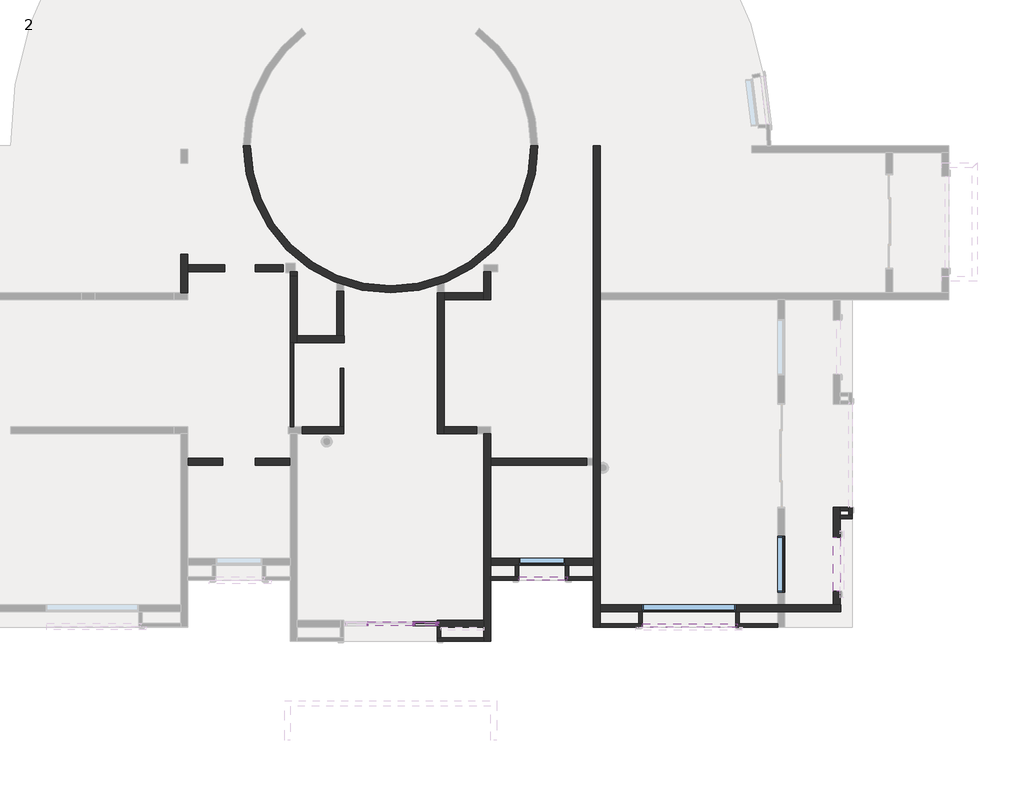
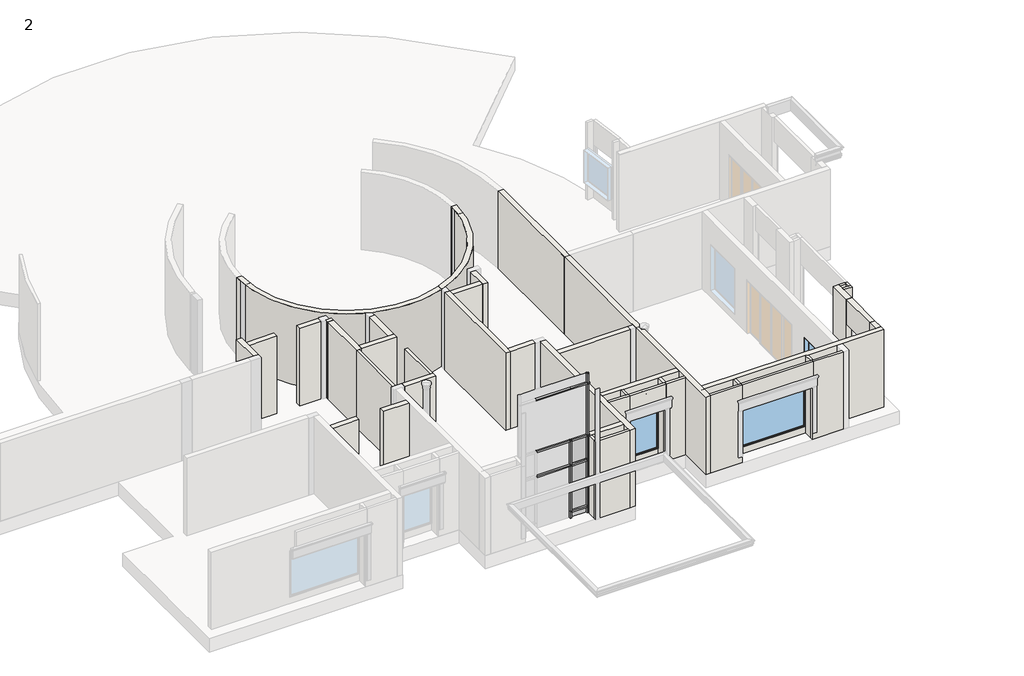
# One storey, part 2 of 10: 41 walls, 21 members, 10 plates, 3 windows.
"""IFC4 building model written with IfcOpenShell, lengths in millimetres."""

from ifc_helpers import new_model, si_unit, point, frame, frame_2d, origin, origin_with_axes, place, context, project, spatial, polyline, circle_curve, trimmed, segment, composite_curve, outline, extrude, faceted_brep, transform, mapped, element, save
from components import rectangular_mullion_64mm_x127mm_rectangular_2_f182018d, rectangular_mullion_64mm_x127mm_rectangular_2_f27d406d, rectangular_mullion_64mm_x127mm_rectangular_2_75d1e245, rectangular_mullion_64mm_x127mm_rectangular_2_06be906d, rectangular_mullion_64mm_x127mm_rectangular_2_866a01fa, rectangular_mullion_64mm_x127mm_rectangular_2_4b922f24, rectangular_mullion_64mm_x127mm_rectangular_2_aca2403a, rectangular_mullion_64mm_x127mm_rectangular_2_867fe1e1, rectangular_mullion_64mm_x127mm_rectangular_2_d2340509, rectangular_mullion_64mm_x127mm_rectangular_2_82905deb, rectangular_mullion_64mm_x127mm_rectangular_2_7b995701, rectangular_mullion_64mm_x127mm_rectangular_2_00d00b53, rectangular_mullion_64mm_x127mm_rectangular_2_7cbddb58, system_panel_glazed_be2d1a8f, system_panel_glazed_3f8747ce, system_panel_glazed_910c57ab, system_panel_glazed_4eb414c4, system_panel_glazed_f3bffda8, system_panel_glazed_06d1d2b3, system_panel_glazed_0c0f1b4f, system_panel_glazed_bb53e18c, system_panel_glazed_e5bdcb8c, system_panel_glazed_ddef2f45, fixed_w1_e8647365, fixed_w2_d0e34ccd, fixed_w4_aaa7ff72

model = new_model("IFC4")

# Units and contexts
model_context = context("Model", 3, world=origin())
ifc_project = project(units=[si_unit("LENGTHUNIT", "METRE", prefix="MILLI")], contexts=[model_context])

# Site, building, storey
site = spatial("IfcSite", under=ifc_project)
building = spatial("IfcBuilding", under=site)
storey = spatial("IfcBuildingStorey", under=building, Name="2", Elevation=0.0)

# Members
placement = place(None, origin())
rectangular_mullion_64mm_x127mm_rectangular_2_shape = rectangular_mullion_64mm_x127mm_rectangular_2_f182018d(model_context)
element("IfcMember", 1, ObjectType="Rectangular Mullion : 64mm x127mm rectangular 2", at=placement, inside=storey, context=model_context, shape_type="MappedRepresentation", body=[
    mapped(rectangular_mullion_64mm_x127mm_rectangular_2_shape, transform((-7658.494385, -15088.1193311, 3581.4), x_axis=(0.0, 0.0, 1.0), y_axis=(0.0, -1.0, 0.0), z_axis=(1.0, 0.0, 0.0))),
])
element("IfcMember", 2, ObjectType="Rectangular Mullion : 64mm x127mm rectangular 2", at=placement, inside=storey, context=model_context, shape_type="MappedRepresentation", body=[
    mapped(rectangular_mullion_64mm_x127mm_rectangular_2_shape, transform((-7658.494385, -15088.1193311, 2438.4), x_axis=(0.0, 0.0, 1.0), y_axis=(0.0, -1.0, 0.0), z_axis=(1.0, 0.0, 0.0))),
])
rectangular_mullion_64mm_x127mm_rectangular_2_2_shape = rectangular_mullion_64mm_x127mm_rectangular_2_f27d406d(model_context)
element("IfcMember", 3, ObjectType="Rectangular Mullion : 64mm x127mm rectangular 2", at=placement, inside=storey, context=model_context, shape_type="MappedRepresentation", body=[
    mapped(rectangular_mullion_64mm_x127mm_rectangular_2_2_shape, transform((-6915.544385, -15088.1193311, 3581.4), x_axis=(0.0, 0.0, 1.0), y_axis=(0.0, -1.0, 0.0), z_axis=(1.0, 0.0, 0.0))),
])
element("IfcMember", 4, ObjectType="Rectangular Mullion : 64mm x127mm rectangular 2", at=placement, inside=storey, context=model_context, shape_type="MappedRepresentation", body=[
    mapped(rectangular_mullion_64mm_x127mm_rectangular_2_2_shape, transform((-6915.544385, -15088.1193311, 2438.4), x_axis=(0.0, 0.0, 1.0), y_axis=(0.0, -1.0, 0.0), z_axis=(1.0, 0.0, 0.0))),
])
element("IfcMember", 5, ObjectType="Rectangular Mullion : 64mm x127mm rectangular 2", at=placement, inside=storey, context=model_context, shape_type="MappedRepresentation", body=[
    mapped(rectangular_mullion_64mm_x127mm_rectangular_2_2_shape, transform((-6915.544385, -15088.1193311, 304.8), x_axis=(0.0, 0.0, 1.0), y_axis=(0.0, -1.0, 0.0), z_axis=(1.0, 0.0, 0.0))),
])
rectangular_mullion_64mm_x127mm_rectangular_2_3_shape = rectangular_mullion_64mm_x127mm_rectangular_2_75d1e245(model_context)
element("IfcMember", 6, ObjectType="Rectangular Mullion : 64mm x127mm rectangular 2", at=placement, inside=storey, context=model_context, shape_type="MappedRepresentation", body=[
    mapped(rectangular_mullion_64mm_x127mm_rectangular_2_3_shape, transform((-7626.744385, -15088.1193311, 0.0), x_axis=(1.0, 0.0, 0.0), y_axis=(0.0, -1.0, 0.0), z_axis=(0.0, 0.0, -1.0))),
])
element("IfcMember", 7, ObjectType="Rectangular Mullion : 64mm x127mm rectangular 2", at=placement, inside=storey, context=model_context, shape_type="MappedRepresentation", body=[
    mapped(rectangular_mullion_64mm_x127mm_rectangular_2_3_shape, transform((-6883.794385, -15088.1193311, 0.0), x_axis=(1.0, 0.0, 0.0), y_axis=(0.0, -1.0, 0.0), z_axis=(0.0, 0.0, -1.0))),
])
rectangular_mullion_64mm_x127mm_rectangular_2_4_shape = rectangular_mullion_64mm_x127mm_rectangular_2_06be906d(model_context)
element("IfcMember", 8, ObjectType="Rectangular Mullion : 64mm x127mm rectangular 2", at=placement, inside=storey, context=model_context, shape_type="MappedRepresentation", body=[
    mapped(rectangular_mullion_64mm_x127mm_rectangular_2_4_shape, transform((-7626.744385, -15088.1193311, 2438.4), x_axis=(1.0, 0.0, 0.0), y_axis=(0.0, -1.0, 0.0), z_axis=(0.0, 0.0, -1.0))),
])
element("IfcMember", 9, ObjectType="Rectangular Mullion : 64mm x127mm rectangular 2", at=placement, inside=storey, context=model_context, shape_type="MappedRepresentation", body=[
    mapped(rectangular_mullion_64mm_x127mm_rectangular_2_4_shape, transform((-6883.794385, -15088.1193311, 2438.4), x_axis=(1.0, 0.0, 0.0), y_axis=(0.0, -1.0, 0.0), z_axis=(0.0, 0.0, -1.0))),
])
rectangular_mullion_64mm_x127mm_rectangular_2_5_shape = rectangular_mullion_64mm_x127mm_rectangular_2_866a01fa(model_context)
element("IfcMember", 10, ObjectType="Rectangular Mullion : 64mm x127mm rectangular 2", at=placement, inside=storey, context=model_context, shape_type="MappedRepresentation", body=[
    mapped(rectangular_mullion_64mm_x127mm_rectangular_2_5_shape, transform((-7626.744385, -15088.1193311, 2489.2), x_axis=(1.0, 0.0, 0.0), y_axis=(0.0, -1.0, 0.0), z_axis=(0.0, 0.0, -1.0))),
])
rectangular_mullion_64mm_x127mm_rectangular_2_6_shape = rectangular_mullion_64mm_x127mm_rectangular_2_4b922f24(model_context)
element("IfcMember", 11, ObjectType="Rectangular Mullion : 64mm x127mm rectangular 2", at=placement, inside=storey, context=model_context, shape_type="MappedRepresentation", body=[
    mapped(rectangular_mullion_64mm_x127mm_rectangular_2_6_shape, transform((-6807.594385, -15088.1193311, 3581.4), x_axis=(0.0, 0.0, 1.0), y_axis=(0.0, -1.0, 0.0), z_axis=(1.0, 0.0, 0.0))),
])
element("IfcMember", 12, ObjectType="Rectangular Mullion : 64mm x127mm rectangular 2", at=placement, inside=storey, context=model_context, shape_type="MappedRepresentation", body=[
    mapped(rectangular_mullion_64mm_x127mm_rectangular_2_6_shape, transform((-6807.594385, -15088.1193311, 2438.4), x_axis=(0.0, 0.0, 1.0), y_axis=(0.0, -1.0, 0.0), z_axis=(1.0, 0.0, 0.0))),
])
element("IfcMember", 13, ObjectType="Rectangular Mullion : 64mm x127mm rectangular 2", at=placement, inside=storey, context=model_context, shape_type="MappedRepresentation", body=[
    mapped(rectangular_mullion_64mm_x127mm_rectangular_2_6_shape, transform((-6807.594385, -15088.1193311, 304.8), x_axis=(0.0, 0.0, 1.0), y_axis=(0.0, -1.0, 0.0), z_axis=(1.0, 0.0, 0.0))),
])
rectangular_mullion_64mm_x127mm_rectangular_2_7_shape = rectangular_mullion_64mm_x127mm_rectangular_2_aca2403a(model_context)
element("IfcMember", 14, ObjectType="Rectangular Mullion : 64mm x127mm rectangular 2", at=placement, inside=storey, context=model_context, shape_type="MappedRepresentation", body=[
    mapped(rectangular_mullion_64mm_x127mm_rectangular_2_7_shape, transform((-6883.794385, -15088.1193311, 3581.4), x_axis=(1.0, 0.0, 0.0), y_axis=(0.0, -1.0, 0.0), z_axis=(0.0, 0.0, -1.0))),
])
rectangular_mullion_64mm_x127mm_rectangular_2_8_shape = rectangular_mullion_64mm_x127mm_rectangular_2_867fe1e1(model_context)
element("IfcMember", 15, ObjectType="Rectangular Mullion : 64mm x127mm rectangular 2", at=placement, inside=storey, context=model_context, shape_type="MappedRepresentation", body=[
    mapped(rectangular_mullion_64mm_x127mm_rectangular_2_8_shape, transform((-6883.794385, -15088.1193311, 2489.2), x_axis=(1.0, 0.0, 0.0), y_axis=(0.0, -1.0, 0.0), z_axis=(0.0, 0.0, -1.0))),
])
rectangular_mullion_64mm_x127mm_rectangular_2_9_shape = rectangular_mullion_64mm_x127mm_rectangular_2_d2340509(model_context)
element("IfcMember", 16, ObjectType="Rectangular Mullion : 64mm x127mm rectangular 2", at=placement, inside=storey, context=model_context, shape_type="MappedRepresentation", body=[
    mapped(rectangular_mullion_64mm_x127mm_rectangular_2_9_shape, transform((-6883.794385, -15088.1193311, 6025.3593009), x_axis=(1.0, 0.0, 0.0), y_axis=(0.0, -1.0, 0.0), z_axis=(0.0, 0.0, -1.0))),
])
rectangular_mullion_64mm_x127mm_rectangular_2_10_shape = rectangular_mullion_64mm_x127mm_rectangular_2_82905deb(model_context)
element("IfcMember", 17, ObjectType="Rectangular Mullion : 64mm x127mm rectangular 2", at=placement, inside=storey, context=model_context, shape_type="MappedRepresentation", body=[
    mapped(rectangular_mullion_64mm_x127mm_rectangular_2_10_shape, transform((-7626.744385, -15088.1193311, 5993.6093009), x_axis=(0.0, 0.0, 1.0), y_axis=(0.0, -1.0, 0.0), z_axis=(1.0, 0.0, 0.0))),
])
rectangular_mullion_64mm_x127mm_rectangular_2_11_shape = rectangular_mullion_64mm_x127mm_rectangular_2_7b995701(model_context)
element("IfcMember", 18, ObjectType="Rectangular Mullion : 64mm x127mm rectangular 2", at=placement, inside=storey, context=model_context, shape_type="MappedRepresentation", body=[
    mapped(rectangular_mullion_64mm_x127mm_rectangular_2_11_shape, transform((-6883.794385, -15088.1193311, 5993.6093009), x_axis=(0.0, 0.0, 1.0), y_axis=(0.0, -1.0, 0.0), z_axis=(1.0, 0.0, 0.0))),
])
rectangular_mullion_64mm_x127mm_rectangular_2_12_shape = rectangular_mullion_64mm_x127mm_rectangular_2_00d00b53(model_context)
element("IfcMember", 19, ObjectType="Rectangular Mullion : 64mm x127mm rectangular 2", at=placement, inside=storey, context=model_context, shape_type="MappedRepresentation", body=[
    mapped(rectangular_mullion_64mm_x127mm_rectangular_2_12_shape, transform((-6807.594385, -15088.1193311, 5993.6093009), x_axis=(0.0, 0.0, 1.0), y_axis=(0.0, -1.0, 0.0), z_axis=(1.0, 0.0, 0.0))),
])
rectangular_mullion_64mm_x127mm_rectangular_2_13_shape = rectangular_mullion_64mm_x127mm_rectangular_2_7cbddb58(model_context)
element("IfcMember", 20, ObjectType="Rectangular Mullion : 64mm x127mm rectangular 2", at=placement, inside=storey, context=model_context, shape_type="MappedRepresentation", body=[
    mapped(rectangular_mullion_64mm_x127mm_rectangular_2_13_shape, transform((-7626.744385, -15088.1193311, 304.8), x_axis=(1.0, 0.0, 0.0), y_axis=(0.0, -1.0, 0.0), z_axis=(0.0, 0.0, -1.0))),
])
element("IfcMember", 21, ObjectType="Rectangular Mullion : 64mm x127mm rectangular 2", at=placement, inside=storey, context=model_context, shape_type="MappedRepresentation", body=[
    mapped(rectangular_mullion_64mm_x127mm_rectangular_2_13_shape, transform((-6883.794385, -15088.1193311, 304.8), x_axis=(1.0, 0.0, 0.0), y_axis=(0.0, -1.0, 0.0), z_axis=(0.0, 0.0, -1.0))),
])

# Plates
system_panel_glazed_shape = system_panel_glazed_be2d1a8f(model_context)
element("IfcPlate", 22, ObjectType="System Panel : Glazed", at=placement, inside=storey, context=model_context, shape_type="MappedRepresentation", body=[
    mapped(system_panel_glazed_shape, transform((-7255.269385, -15088.1193311, 2470.15), x_axis=(1.0, 0.0, 0.0), y_axis=(0.0, 1.0, 0.0), z_axis=(0.0, 0.0, 1.0))),
])
system_panel_glazed_2_shape = system_panel_glazed_3f8747ce(model_context)
element("IfcPlate", 23, ObjectType="System Panel : Glazed", at=placement, inside=storey, context=model_context, shape_type="MappedRepresentation", body=[
    mapped(system_panel_glazed_2_shape, transform((-7255.269385, -15088.1193311, 2489.2), x_axis=(1.0, 0.0, 0.0), y_axis=(0.0, 1.0, 0.0), z_axis=(0.0, 0.0, 1.0))),
])
system_panel_glazed_3_shape = system_panel_glazed_910c57ab(model_context)
element("IfcPlate", 24, ObjectType="System Panel : Glazed", at=placement, inside=storey, context=model_context, shape_type="MappedRepresentation", body=[
    mapped(system_panel_glazed_3_shape, transform((-6829.819385, -15088.1193311, 2470.15), x_axis=(1.0, 0.0, 0.0), y_axis=(0.0, 1.0, 0.0), z_axis=(0.0, 0.0, 1.0))),
])
system_panel_glazed_4_shape = system_panel_glazed_4eb414c4(model_context)
element("IfcPlate", 25, ObjectType="System Panel : Glazed", at=placement, inside=storey, context=model_context, shape_type="MappedRepresentation", body=[
    mapped(system_panel_glazed_4_shape, transform((-6829.819385, -15088.1193311, 2489.2), x_axis=(1.0, 0.0, 0.0), y_axis=(0.0, 1.0, 0.0), z_axis=(0.0, 0.0, 1.0))),
])
system_panel_glazed_5_shape = system_panel_glazed_f3bffda8(model_context)
element("IfcPlate", 26, ObjectType="System Panel : Glazed", at=placement, inside=storey, context=model_context, shape_type="MappedRepresentation", body=[
    mapped(system_panel_glazed_5_shape, transform((-6829.819385, -15088.1193311, 3613.15), x_axis=(1.0, 0.0, 0.0), y_axis=(0.0, 1.0, 0.0), z_axis=(0.0, 0.0, 1.0))),
])
system_panel_glazed_6_shape = system_panel_glazed_06d1d2b3(model_context)
element("IfcPlate", 27, ObjectType="System Panel : Glazed", at=placement, inside=storey, context=model_context, shape_type="MappedRepresentation", body=[
    mapped(system_panel_glazed_6_shape, transform((-6829.819385, -15088.1193311, 6025.3593009), x_axis=(1.0, 0.0, 0.0), y_axis=(0.0, 1.0, 0.0), z_axis=(0.0, 0.0, 1.0))),
])
system_panel_glazed_7_shape = system_panel_glazed_0c0f1b4f(model_context)
element("IfcPlate", 28, ObjectType="System Panel : Glazed", at=placement, inside=storey, context=model_context, shape_type="MappedRepresentation", body=[
    mapped(system_panel_glazed_7_shape, transform((-7255.269385, -15088.1193311, 0.0), x_axis=(1.0, 0.0, 0.0), y_axis=(0.0, 1.0, 0.0), z_axis=(0.0, 0.0, 1.0))),
])
system_panel_glazed_8_shape = system_panel_glazed_bb53e18c(model_context)
element("IfcPlate", 29, ObjectType="System Panel : Glazed", at=placement, inside=storey, context=model_context, shape_type="MappedRepresentation", body=[
    mapped(system_panel_glazed_8_shape, transform((-6829.819385, -15088.1193311, 0.0), x_axis=(1.0, 0.0, 0.0), y_axis=(0.0, 1.0, 0.0), z_axis=(0.0, 0.0, 1.0))),
])
system_panel_glazed_9_shape = system_panel_glazed_e5bdcb8c(model_context)
element("IfcPlate", 30, ObjectType="System Panel : Glazed", at=placement, inside=storey, context=model_context, shape_type="MappedRepresentation", body=[
    mapped(system_panel_glazed_9_shape, transform((-7255.269385, -15088.1193311, 336.55), x_axis=(1.0, 0.0, 0.0), y_axis=(0.0, 1.0, 0.0), z_axis=(0.0, 0.0, 1.0))),
])
system_panel_glazed_10_shape = system_panel_glazed_ddef2f45(model_context)
element("IfcPlate", 31, ObjectType="System Panel : Glazed", at=placement, inside=storey, context=model_context, shape_type="MappedRepresentation", body=[
    mapped(system_panel_glazed_10_shape, transform((-6829.819385, -15088.1193311, 336.55), x_axis=(1.0, 0.0, 0.0), y_axis=(0.0, 1.0, 0.0), z_axis=(0.0, 0.0, 1.0))),
])

# Walls
element("IfcWall", 32, ObjectType="115mm BK WALL", at=placement, inside=storey, context=model_context, shape_type="SweptSolid", body=[
    extrude(outline(polyline([(-10030.7929814, -8649.2193311), (-10030.7929814, -6744.2193311), (-9916.4929814, -6744.2193311), (-9916.4929814, -8649.2193311), (-10030.7929814, -8649.2193311)])), origin_with_axes(), (0.0, 0.0, 1.0), 3581.4),
])
element("IfcWall", 33, ObjectType="115mm BK WALL", at=placement, inside=storey, context=model_context, shape_type="SweptSolid", body=[
    extrude(outline(polyline([(-11665.1950906, -8649.2193311), (-11665.1950906, -5906.0193311), (-11550.8950906, -5906.0193311), (-11550.8950906, -8649.2193311), (-11665.1950906, -8649.2193311)])), origin_with_axes(), (0.0, 0.0, 1.0), 3581.4),
])
element("IfcWall", 34, ObjectType="115mm BK WALL", at=placement, inside=storey, context=model_context, shape_type="Brep", body=[
    faceted_brep([(-6864.744385, -15202.4193311, 0.0), (-6864.744385, -15545.3193311, 0.0), (-6864.744385, -15545.3193311, 3581.4), (-6864.744385, -15202.4193311, 3581.4), (-6750.444385, -15545.3193311, 0.0), (-6750.444385, -15202.4193311, 0.0), (-6750.444385, -15202.4193311, 2743.2), (-6750.444385, -15202.4193311, 3238.5), (-6750.444385, -15202.4193311, 3581.4), (-6750.444385, -15545.3193311, 3581.4)], [[[0, 1, 2, 3]], [[4, 5, 6, 7, 8, 9]], [[1, 0, 5, 4]], [[3, 2, 9, 8]], [[0, 3, 8, 7, 6, 5]], [[2, 1, 4, 9]]]),
])
element("IfcWall", 35, ObjectType="115mm BK WALL", at=placement, inside=storey, context=model_context, shape_type="Brep", body=[
    faceted_brep([(-6864.744385, -15659.6193311, 0.0), (-5340.5950906, -15659.6193311, 0.0), (-5340.5950906, -15659.6193311, 3581.4), (-6864.744385, -15659.6193311, 3581.4), (-6864.744385, -15545.3193311, 0.0), (-6864.744385, -15545.3193311, 3581.4), (-6750.444385, -15545.3193311, 3581.4), (-5340.5950906, -15545.3193311, 3581.4), (-5340.5950906, -15545.3193311, 0.0), (-6750.444385, -15545.3193311, 0.0)], [[[0, 1, 2, 3]], [[4, 5, 6, 7, 8, 9]], [[1, 0, 4, 9, 8]], [[3, 2, 7, 6, 5]], [[0, 3, 5, 4]], [[2, 1, 8, 7]]]),
])
element("IfcWall", 36, ObjectType="115mm BK WALL", at=placement, inside=storey, context=model_context, shape_type="Brep", body=[
    faceted_brep([(-5111.9950906, -13677.6181763, 0.0), (-4197.744385, -13677.6181763, 0.0), (-4197.744385, -13677.6181763, 2438.4), (-4197.744385, -13677.6181763, 3581.4), (-5111.9950906, -13677.6181763, 3581.4), (-5111.9950906, -13563.3181763, 0.0), (-5111.9950906, -13563.3181763, 3581.4), (-4312.044385, -13563.3181763, 3581.4), (-4197.744385, -13563.3181763, 3581.4), (-4197.744385, -13563.3181763, 2438.4), (-4197.744385, -13563.3181763, 0.0), (-4312.044385, -13563.3181763, 0.0)], [[[0, 1, 2, 3, 4]], [[5, 6, 7, 8, 9, 10, 11]], [[1, 0, 5, 11, 10]], [[4, 3, 8, 7, 6]], [[1, 10, 9, 8, 3, 2]], [[0, 4, 6, 5]]]),
])
element("IfcWall", 37, ObjectType="115mm BK WALL", at=placement, inside=storey, context=model_context, shape_type="Brep", body=[
    faceted_brep([(-4197.744385, -13563.3181763, 3581.4), (-4197.744385, -13563.3181763, 0.0), (-4197.744385, -13183.1193311, 0.0), (-4197.744385, -13183.1193311, 304.8), (-4197.744385, -13183.1193311, 2438.4), (-4197.744385, -13183.1193311, 3581.4), (-4312.044385, -13563.3181763, 0.0), (-4312.044385, -13563.3181763, 3581.4), (-4312.044385, -13183.1193311, 3581.4), (-4312.044385, -13183.1193311, 0.0)], [[[0, 1, 2, 3, 4, 5]], [[6, 7, 8, 9]], [[2, 1, 6, 9]], [[0, 5, 8, 7]], [[0, 7, 6, 1]], [[5, 4, 3, 2, 9, 8]]]),
])
element("IfcWall", 38, ObjectType="115mm BK WALL", at=placement, inside=storey, context=model_context, shape_type="Brep", body=[
    faceted_brep([(-2673.744385, -13183.1193311, 0.0), (-2673.744385, -13563.3181763, 0.0), (-2673.744385, -13563.3181763, 2438.4), (-2673.744385, -13563.3181763, 3581.4), (-2673.744385, -13183.1193311, 3581.4), (-2673.744385, -13183.1193311, 2438.4), (-2673.744385, -13183.1193311, 304.8), (-2559.444385, -13183.1193311, 0.0), (-2559.444385, -13183.1193311, 3581.4), (-2559.444385, -13563.3181763, 3581.4), (-2559.444385, -13563.3181763, 0.0), (-2616.594385, -13563.3181763, 3581.4)], [[[0, 1, 2, 3, 4, 5, 6]], [[7, 8, 9, 10]], [[1, 0, 7, 10]], [[4, 3, 11, 9, 8]], [[0, 6, 5, 4, 8, 7]], [[1, 10, 9, 11, 3, 2]]]),
])
element("IfcWall", 39, ObjectType="115mm BK WALL", at=placement, inside=storey, context=model_context, shape_type="Brep", body=[
    faceted_brep([(-2673.744385, -13677.6181763, 0.0), (-1759.1950906, -13677.6181763, 0.0), (-1759.1950906, -13677.6181763, 3581.4), (-2616.594385, -13677.6181763, 3581.4), (-2616.594385, -13677.6181763, 2438.4), (-2673.744385, -13677.6181763, 2438.4), (-2673.744385, -13563.3181763, 0.0), (-2673.744385, -13563.3181763, 2438.4), (-2616.594385, -13563.3181763, 2438.4), (-2616.594385, -13563.3181763, 3581.4), (-2559.444385, -13563.3181763, 3581.4), (-1759.1950906, -13563.3181763, 3581.4), (-1759.1950906, -13563.3181763, 0.0), (-2559.444385, -13563.3181763, 0.0)], [[[0, 1, 2, 3, 4, 5]], [[6, 7, 8, 9, 10, 11, 12, 13]], [[1, 0, 6, 13, 12]], [[3, 2, 11, 10, 9]], [[4, 3, 9, 8]], [[4, 8, 7, 5]], [[0, 5, 7, 6]], [[2, 1, 12, 11]]]),
])
element("IfcWall", 40, ObjectType="115mm BK WALL", at=placement, inside=storey, context=model_context, shape_type="Brep", body=[
    faceted_brep([(-1530.5950906, -15202.4193311, 0.0), (-159.144385, -15202.4193311, 0.0), (-159.144385, -15202.4193311, 2438.4), (-159.144385, -15202.4193311, 2933.7), (-159.144385, -15202.4193311, 3581.4), (-1530.5950906, -15202.4193311, 3581.4), (-159.144385, -15088.1193311, 0.0), (-273.444385, -15088.1193311, 0.0), (-1530.5950906, -15088.1193311, 0.0), (-1530.5950906, -15088.1193311, 3581.4), (-273.444385, -15088.1193311, 3581.4), (-159.144385, -15088.1193311, 3581.4), (-159.144385, -15088.1193311, 2438.4)], [[[0, 1, 2, 3, 4, 5]], [[6, 7, 8, 9, 10, 11, 12]], [[1, 0, 8, 7, 6]], [[5, 4, 11, 10, 9]], [[1, 6, 12, 11, 4, 3, 2]], [[0, 5, 9, 8]]]),
])
element("IfcWall", 41, ObjectType="115mm BK WALL", at=placement, inside=storey, context=model_context, shape_type="Brep", body=[
    faceted_brep([(-159.144385, -15088.1193311, 3581.4), (-159.144385, -15088.1193311, 0.0), (-159.144385, -14707.1193311, 0.0), (-159.144385, -14707.1193311, 304.8), (-159.144385, -14707.1193311, 2438.4), (-159.144385, -14707.1193311, 3581.4), (-273.444385, -15088.1193311, 0.0), (-273.444385, -15088.1193311, 3581.4), (-273.444385, -14707.1193311, 3581.4), (-273.444385, -14707.1193311, 0.0)], [[[0, 1, 2, 3, 4, 5]], [[6, 7, 8, 9]], [[2, 1, 6, 9]], [[0, 5, 8, 7]], [[0, 7, 6, 1]], [[5, 4, 3, 2, 9, 8]]]),
])
element("IfcWall", 42, ObjectType="115mm BK WALL", at=placement, inside=storey, context=model_context, shape_type="Brep", body=[
    faceted_brep([(2888.855615, -14707.1193311, 0.0), (2888.855615, -15088.1193311, 0.0), (2888.855615, -15088.1193311, 2438.4), (2888.855615, -15088.1193311, 3581.4), (2888.855615, -14707.1193311, 3581.4), (2888.855615, -14707.1193311, 2438.4), (2888.855615, -14707.1193311, 304.8), (3003.155615, -15088.1193311, 0.0), (3003.155615, -14707.1193311, 0.0), (3003.155615, -14707.1193311, 3581.4), (3003.155615, -15088.1193311, 3581.4), (2946.005615, -15088.1193311, 3581.4)], [[[0, 1, 2, 3, 4, 5, 6]], [[7, 8, 9, 10]], [[1, 0, 8, 7]], [[4, 3, 11, 10, 9]], [[0, 6, 5, 4, 9, 8]], [[1, 7, 10, 11, 3, 2]]]),
])
element("IfcWall", 43, ObjectType="115mm BK WALL", at=placement, inside=storey, context=model_context, shape_type="Brep", body=[
    faceted_brep([(2888.855615, -15202.4193311, 0.0), (4260.6049094, -15202.4193311, 0.0), (4260.6049094, -15202.4193311, 3581.4), (2946.005615, -15202.4193311, 3581.4), (2946.005615, -15202.4193311, 2933.7), (2946.005615, -15202.4193311, 2438.4), (2888.855615, -15202.4193311, 2438.4), (4260.6049094, -15088.1193311, 0.0), (3003.155615, -15088.1193311, 0.0), (2888.855615, -15088.1193311, 0.0), (2888.855615, -15088.1193311, 2438.4), (2946.005615, -15088.1193311, 2438.4), (2946.005615, -15088.1193311, 3581.4), (3003.155615, -15088.1193311, 3581.4), (4260.6049094, -15088.1193311, 3581.4)], [[[0, 1, 2, 3, 4, 5, 6]], [[7, 8, 9, 10, 11, 12, 13, 14]], [[1, 0, 9, 8, 7]], [[3, 2, 14, 13, 12]], [[3, 12, 11, 5, 4]], [[5, 11, 10, 6]], [[0, 6, 10, 9]], [[2, 1, 7, 14]]]),
])
element("IfcWall", 44, ObjectType="115mm BK WALL", at=placement, inside=storey, context=model_context, shape_type="Brep", body=[
    faceted_brep([(6317.0878641, -11658.3181763, 0.0), (6697.9385697, -11658.3181763, 0.0), (6697.9385697, -11658.3181763, 3581.4), (6317.0878641, -11658.3181763, 3581.4), (6317.0878641, -11544.0181763, 0.0), (6317.0878641, -11544.0181763, 3581.4), (6583.6385697, -11544.0181763, 3581.4), (6697.9385697, -11544.0181763, 3581.4), (6697.9385697, -11544.0181763, 0.0), (6583.6385697, -11544.0181763, 0.0)], [[[0, 1, 2, 3]], [[4, 5, 6, 7, 8, 9]], [[1, 0, 4, 9, 8]], [[3, 2, 7, 6, 5]], [[2, 1, 8, 7]], [[0, 3, 5, 4]]]),
])
element("IfcWall", 45, ObjectType="115mm BK WALL", at=placement, inside=storey, context=model_context, shape_type="Brep", body=[
    faceted_brep([(6697.9385697, -11544.0181763, 0.0), (6697.9385697, -11277.3181763, 0.0), (6697.9385697, -11277.3181763, 2438.4), (6697.9385697, -11277.3181763, 2933.7), (6697.9385697, -11277.3181763, 3581.4), (6697.9385697, -11544.0181763, 3581.4), (6583.6385697, -11277.3181763, 0.0), (6583.6385697, -11391.6181763, 0.0), (6583.6385697, -11544.0181763, 0.0), (6583.6385697, -11544.0181763, 3581.4), (6583.6385697, -11391.6181763, 3581.4), (6583.6385697, -11277.3181763, 3581.4), (6583.6385697, -11277.3181763, 2438.4)], [[[0, 1, 2, 3, 4, 5]], [[6, 7, 8, 9, 10, 11, 12]], [[1, 0, 8, 7, 6]], [[5, 4, 11, 10, 9]], [[1, 6, 12, 11, 4, 3, 2]], [[0, 5, 9, 8]]]),
])
element("IfcWall", 46, ObjectType="115mm BK WALL", at=placement, inside=storey, context=model_context, shape_type="SweptSolid", body=[
    extrude(outline(polyline([(6317.0878641, -11277.3181763), (6583.6385697, -11277.3181763), (6583.6385697, -11391.6181763), (6317.0878641, -11391.6181763), (6317.0878641, -11277.3181763)])), origin_with_axes(), (0.0, 0.0, 1.0), 3581.4),
])
element("IfcWall", 47, ObjectType="115mm BK WALL", at=placement, inside=storey, context=model_context, shape_type="Brep", body=[
    faceted_brep([(-159.144385, -15202.4193311, 2438.4), (2888.855615, -15202.4193311, 2438.4), (2946.005615, -15202.4193311, 2438.4), (2946.005615, -15202.4193311, 3581.4), (-159.144385, -15202.4193311, 3581.4), (-159.144385, -15088.1193311, 2438.4), (-159.144385, -15088.1193311, 3581.4), (2888.855615, -15088.1193311, 3581.4), (2946.005615, -15088.1193311, 3581.4), (2946.005615, -15088.1193311, 2438.4), (2888.855615, -15088.1193311, 2438.4)], [[[0, 1, 2, 3, 4]], [[5, 6, 7, 8, 9, 10]], [[2, 1, 0, 5, 10, 9]], [[3, 2, 9, 8]], [[4, 3, 8, 7, 6]], [[0, 4, 6, 5]]]),
])
element("IfcWall", 48, ObjectType="115mm BK WALL", at=placement, inside=storey, context=model_context, shape_type="Brep", body=[
    faceted_brep([(-4197.744385, -13677.6181763, 2438.4), (-2673.744385, -13677.6181763, 2438.4), (-2616.594385, -13677.6181763, 2438.4), (-2616.594385, -13677.6181763, 3581.4), (-4197.744385, -13677.6181763, 3581.4), (-4197.744385, -13563.3181763, 2438.4), (-4197.744385, -13563.3181763, 3581.4), (-2673.744385, -13563.3181763, 3581.4), (-2616.594385, -13563.3181763, 3581.4), (-2616.594385, -13563.3181763, 2438.4), (-2673.744385, -13563.3181763, 2438.4)], [[[0, 1, 2, 3, 4]], [[5, 6, 7, 8, 9, 10]], [[2, 1, 0, 5, 10, 9]], [[3, 2, 9, 8]], [[4, 3, 8, 7, 6]], [[0, 4, 6, 5]]]),
])
element("IfcWall", 49, ObjectType="230mm BK WALL", at=placement, inside=storey, context=model_context, shape_type="Brep", body=[
    faceted_brep([(-5111.9950906, -13183.1193311, 0.0), (-4312.044385, -13183.1193311, 0.0), (-4197.744385, -13183.1193311, 0.0), (-2673.744385, -13183.1193311, 0.0), (-2559.444385, -13183.1193311, 0.0), (-1759.1950906, -13183.1193311, 0.0), (-1759.1950906, -13183.1193311, 3581.4), (-2559.444385, -13183.1193311, 3581.4), (-2673.744385, -13183.1193311, 3581.4), (-4197.744385, -13183.1193311, 3581.4), (-4312.044385, -13183.1193311, 3581.4), (-5111.9950906, -13183.1193311, 3581.4), (-4197.744385, -13183.1193311, 2438.4), (-2673.744385, -13183.1193311, 2438.4), (-2673.744385, -13183.1193311, 304.8), (-4197.744385, -13183.1193311, 304.8), (-5111.9950906, -12954.5193311, 0.0), (-5111.9950906, -12954.5193311, 3581.4), (-1759.1950906, -12954.5193311, 3581.4), (-1759.1950906, -12954.5193311, 0.0), (-4197.744385, -12954.5193311, 2438.4), (-4197.744385, -12954.5193311, 304.8), (-2673.744385, -12954.5193311, 304.8), (-2673.744385, -12954.5193311, 2438.4)], [[[0, 1, 2, 3, 4, 5, 6, 7, 8, 9, 10, 11], [12, 13, 14, 15]], [[16, 17, 18, 19], [20, 21, 22, 23]], [[5, 4, 3, 2, 1, 0, 16, 19]], [[11, 10, 9, 8, 7, 6, 18, 17]], [[6, 5, 19, 18]], [[0, 11, 17, 16]], [[21, 20, 12, 15]], [[22, 21, 15, 14]], [[23, 22, 14, 13]], [[20, 23, 13, 12]]]),
])
element("IfcWall", 50, ObjectType="230mm BK WALL", at=placement, inside=storey, context=model_context, shape_type="Brep", body=[
    faceted_brep([(-1530.5950906, -14707.1193311, 0.0), (-273.444385, -14707.1193311, 0.0), (-159.144385, -14707.1193311, 0.0), (2888.855615, -14707.1193311, 0.0), (3003.155615, -14707.1193311, 0.0), (6318.0049094, -14707.1193311, 0.0), (6318.0049094, -14707.1193311, 3581.4), (3003.155615, -14707.1193311, 3581.4), (2888.855615, -14707.1193311, 3581.4), (-159.144385, -14707.1193311, 3581.4), (-273.444385, -14707.1193311, 3581.4), (-1530.5950906, -14707.1193311, 3581.4), (-159.144385, -14707.1193311, 304.8), (-159.144385, -14707.1193311, 2438.4), (2888.855615, -14707.1193311, 2438.4), (2888.855615, -14707.1193311, 304.8), (6318.0049094, -14478.5193311, 0.0), (6317.0878641, -14478.5193311, 0.0), (6088.4878641, -14478.5193311, 0.0), (-1530.5950906, -14478.5193311, 0.0), (-1530.5950906, -14478.5193311, 3581.4), (6088.4878641, -14478.5193311, 3581.4), (6317.0878641, -14478.5193311, 3581.4), (6318.0049094, -14478.5193311, 3581.4), (-159.144385, -14478.5193311, 2438.4), (-159.144385, -14478.5193311, 304.8), (2888.855615, -14478.5193311, 304.8), (2888.855615, -14478.5193311, 2438.4)], [[[0, 1, 2, 3, 4, 5, 6, 7, 8, 9, 10, 11], [12, 13, 14, 15]], [[16, 17, 18, 19, 20, 21, 22, 23], [24, 25, 26, 27]], [[5, 4, 3, 2, 1, 0, 19, 18, 17, 16]], [[6, 5, 16, 23]], [[11, 10, 9, 8, 7, 6, 23, 22, 21, 20]], [[0, 11, 20, 19]], [[24, 13, 12, 25]], [[15, 26, 25, 12]], [[26, 15, 14, 27]], [[13, 24, 27, 14]]]),
])
element("IfcWall", 51, ObjectType="230mm BK WALL", at=placement, inside=storey, context=model_context, shape_type="Brep", body=[
    faceted_brep([(-1759.1950906, 536.0156211, 0.0), (-1759.1950906, -12954.5193311, 0.0), (-1759.1950906, -13183.1193311, 0.0), (-1759.1950906, -13563.3181763, 0.0), (-1759.1950906, -13677.6181763, 0.0), (-1759.1950906, -15202.4193311, 0.0), (-1759.1950906, -15202.4193311, 3581.4), (-1759.1950906, -13677.6181763, 3581.4), (-1759.1950906, -13563.3181763, 3581.4), (-1759.1950906, -13183.1193311, 3581.4), (-1759.1950906, -12954.5193311, 3581.4), (-1759.1950906, 536.0156211, 3581.4), (-1530.5950906, 536.0156211, 0.0), (-1530.5950906, 536.0156211, 3581.4), (-1530.5950906, -4267.7193311, 3581.4), (-1530.5950906, -4496.3193311, 3581.4), (-1530.5950906, -14478.5193311, 3581.4), (-1530.5950906, -14707.1193311, 3581.4), (-1530.5950906, -15088.1193311, 3581.4), (-1530.5950906, -15202.4193311, 3581.4), (-1530.5950906, -15202.4193311, 0.0), (-1530.5950906, -15088.1193311, 0.0), (-1530.5950906, -14707.1193311, 0.0), (-1530.5950906, -14478.5193311, 0.0), (-1530.5950906, -4496.3193311, 0.0), (-1530.5950906, -4267.7193311, 0.0)], [[[0, 1, 2, 3, 4, 5, 6, 7, 8, 9, 10, 11]], [[12, 13, 14, 15, 16, 17, 18, 19, 20, 21, 22, 23, 24, 25]], [[5, 4, 3, 2, 1, 0, 12, 25, 24, 23, 22, 21, 20]], [[11, 10, 9, 8, 7, 6, 19, 18, 17, 16, 15, 14, 13]], [[0, 11, 13, 12]], [[6, 5, 20, 19]]]),
])
element("IfcWall", 52, ObjectType="230mm BK WALL", at=placement, inside=storey, context=model_context, shape_type="Brep", body=[
    faceted_brep([(-5340.5950906, -3581.9193311, 0.0), (-5340.5950906, -4267.7193311, 0.0), (-5340.5950906, -4496.3193311, 0.0), (-5340.5950906, -4496.3193311, 3581.4), (-5340.5950906, -4267.7193311, 3581.4), (-5340.5950906, -3581.9193311, 3581.4), (-5111.9950906, -3581.9193311, 0.0), (-5111.9950906, -3581.9193311, 3581.4), (-5111.9950906, -4496.3193311, 3581.4), (-5111.9950906, -4496.3193311, 0.0)], [[[0, 1, 2, 3, 4, 5]], [[6, 7, 8, 9]], [[2, 1, 0, 6, 9]], [[5, 4, 3, 8, 7]], [[0, 5, 7, 6]], [[3, 2, 9, 8]]]),
])
element("IfcWall", 53, ObjectType="230mm BK WALL", at=placement, inside=storey, context=model_context, shape_type="Brep", body=[
    faceted_brep([(-6864.5950906, -4267.7193311, 0.0), (-6864.5950906, -8877.8193311, 0.0), (-6864.5950906, -8877.8193311, 3581.4), (-6864.5950906, -4267.7193311, 3581.4), (-6635.9950906, -4267.7193311, 0.0), (-6635.9950906, -4267.7193311, 3581.4), (-6635.9950906, -4496.3193311, 3581.4), (-6635.9950906, -8649.2193311, 3581.4), (-6635.9950906, -8877.8193311, 3581.4), (-6635.9950906, -8877.8193311, 0.0), (-6635.9950906, -8649.2193311, 0.0), (-6635.9950906, -4496.3193311, 0.0)], [[[0, 1, 2, 3]], [[4, 5, 6, 7, 8, 9, 10, 11]], [[1, 0, 4, 11, 10, 9]], [[3, 2, 8, 7, 6, 5]], [[0, 3, 5, 4]], [[2, 1, 9, 8]]]),
])
element("IfcWall", 54, ObjectType="230mm BK WALL", at=placement, inside=storey, context=model_context, shape_type="SweptSolid", body=[
    extrude(outline(polyline([(-5340.5950906, -4496.3193311), (-6635.9950906, -4496.3193311), (-6635.9950906, -4267.7193311), (-5340.5950906, -4267.7193311), (-5340.5950906, -4496.3193311)])), origin_with_axes(), (0.0, 0.0, 1.0), 3581.4),
])
element("IfcWall", 55, ObjectType="230mm BK WALL", at=placement, inside=storey, context=model_context, shape_type="SweptSolid", body=[
    extrude(outline(polyline([(-5565.5950906, -8877.8193311), (-6635.9950906, -8877.8193311), (-6635.9950906, -8649.2193311), (-5565.5950906, -8649.2193311), (-5565.5950906, -8877.8193311)])), origin_with_axes(), (0.0, 0.0, 1.0), 3581.4),
])
element("IfcWall", 56, ObjectType="230mm BK WALL", at=placement, inside=storey, context=model_context, shape_type="Brep", body=[
    faceted_brep([(-5340.5950906, -8877.8193311, 0.0), (-5340.5950906, -14973.8193311, 0.0), (-5340.5950906, -15202.4193311, 0.0), (-5340.5950906, -15545.3193311, 0.0), (-5340.5950906, -15659.6193311, 0.0), (-5340.5950906, -15659.6193311, 3581.4), (-5340.5950906, -15545.3193311, 3581.4), (-5340.5950906, -15202.4193311, 3581.4), (-5340.5950906, -14973.8193311, 3581.4), (-5340.5950906, -8877.8193311, 3581.4), (-5111.9950906, -8877.8193311, 0.0), (-5111.9950906, -8877.8193311, 3581.4), (-5111.9950906, -9677.9193311, 3581.4), (-5111.9950906, -9906.5193311, 3581.4), (-5111.9950906, -12954.5193311, 3581.4), (-5111.9950906, -13183.1193311, 3581.4), (-5111.9950906, -13563.3181763, 3581.4), (-5111.9950906, -13677.6181763, 3581.4), (-5111.9950906, -15659.6193311, 3581.4), (-5111.9950906, -15659.6193311, 0.0), (-5111.9950906, -13677.6181763, 0.0), (-5111.9950906, -13563.3181763, 0.0), (-5111.9950906, -13183.1193311, 0.0), (-5111.9950906, -12954.5193311, 0.0), (-5111.9950906, -9906.5193311, 0.0), (-5111.9950906, -9677.9193311, 0.0)], [[[0, 1, 2, 3, 4, 5, 6, 7, 8, 9]], [[10, 11, 12, 13, 14, 15, 16, 17, 18, 19, 20, 21, 22, 23, 24, 25]], [[4, 3, 2, 1, 0, 10, 25, 24, 23, 22, 21, 20, 19]], [[9, 8, 7, 6, 5, 18, 17, 16, 15, 14, 13, 12, 11]], [[0, 9, 11, 10]], [[5, 4, 19, 18]]]),
])
element("IfcWall", 57, ObjectType="230mm BK WALL", at=placement, inside=storey, context=model_context, shape_type="SweptSolid", body=[
    extrude(outline(polyline([(-1984.1950906, -9906.5193311), (-5111.9950906, -9906.5193311), (-5111.9950906, -9677.9193311), (-1984.1950906, -9677.9193311), (-1984.1950906, -9906.5193311)])), origin_with_axes(), (0.0, 0.0, 1.0), 3581.4),
])
element("IfcWall", 58, ObjectType="230mm BK WALL", at=placement, inside=storey, context=model_context, shape_type="Brep", body=[
    faceted_brep([(-15017.9950906, -4267.7193311, 0.0), (-15017.9950906, -3581.9193311, 0.0), (-15017.9950906, -3353.3193311, 0.0), (-15017.9950906, -3010.4193311, 0.0), (-15017.9950906, -3010.4193311, 3581.4), (-15017.9950906, -3353.3193311, 3581.4), (-15017.9950906, -3581.9193311, 3581.4), (-15017.9950906, -4267.7193311, 3581.4), (-15246.5950906, -4267.7193311, 0.0), (-15246.5950906, -4267.7193311, 3581.4), (-15246.5950906, -3010.4193311, 3581.4), (-15246.5950906, -3010.4193311, 0.0)], [[[0, 1, 2, 3, 4, 5, 6, 7]], [[8, 9, 10, 11]], [[3, 2, 1, 0, 8, 11]], [[4, 3, 11, 10]], [[7, 6, 5, 4, 10, 9]], [[0, 7, 9, 8]]]),
])
element("IfcWall", 59, ObjectType="230mm BK WALL", at=placement, inside=storey, context=model_context, shape_type="SweptSolid", body=[
    extrude(outline(polyline([(-13816.5824081, -3581.9193311), (-15017.9950906, -3581.9193311), (-15017.9950906, -3353.3193311), (-13816.5824081, -3353.3193311), (-13816.5824081, -3581.9193311)])), origin_with_axes(), (0.0, 0.0, 1.0), 3581.4),
])
element("IfcWall", 60, ObjectType="230mm BK WALL", at=placement, inside=storey, context=model_context, shape_type="SweptSolid", body=[
    extrude(outline(polyline([(-13874.9950906, -9906.5193311), (-15017.9950906, -9906.5193311), (-15017.9950906, -9677.9193311), (-13874.9950906, -9677.9193311), (-13874.9950906, -9906.5193311)])), origin_with_axes(), (0.0, 0.0, 1.0), 3581.4),
])
element("IfcWall", 61, ObjectType="230mm BK WALL", at=placement, inside=storey, context=model_context, shape_type="SweptSolid", body=[
    extrude(outline(polyline([(-11665.1950906, -9906.5193311), (-12808.1950906, -9906.5193311), (-12808.1950906, -9677.9193311), (-11665.1950906, -9677.9193311), (-11665.1950906, -9906.5193311)])), origin_with_axes(), (0.0, 0.0, 1.0), 3581.4),
])
element("IfcWall", 62, ObjectType="230mm BK WALL", at=placement, inside=storey, context=model_context, shape_type="Brep", body=[
    faceted_brep([(-11275.0950906, -8877.8193311, 0.0), (-9916.4929814, -8877.8193311, 0.0), (-9916.4929814, -8877.8193311, 3581.4), (-11275.0950906, -8877.8193311, 3581.4), (-11275.0950906, -8649.2193311, 0.0), (-11275.0950906, -8649.2193311, 3581.4), (-10030.7929814, -8649.2193311, 3581.4), (-9916.4929814, -8649.2193311, 3581.4), (-9916.4929814, -8649.2193311, 0.0), (-10030.7929814, -8649.2193311, 0.0)], [[[0, 1, 2, 3]], [[4, 5, 6, 7, 8, 9]], [[1, 0, 4, 9, 8]], [[3, 2, 7, 6, 5]], [[0, 3, 5, 4]], [[2, 1, 8, 7]]]),
])
element("IfcWall", 63, ObjectType="230mm BK WALL", at=placement, inside=storey, context=model_context, shape_type="Brep", body=[
    faceted_brep([(-11434.1429814, -5906.0193311, 0.0), (-9910.1429814, -5906.0193311, 0.0), (-9910.1429814, -5906.0193311, 3581.4), (-11434.1429814, -5906.0193311, 3581.4), (-11434.1429814, -5677.4193311, 0.0), (-11434.1429814, -5677.4193311, 3581.4), (-10141.1950906, -5677.4193311, 3581.4), (-9912.5950906, -5677.4193311, 3581.4), (-9910.1429814, -5677.4193311, 3581.4), (-9910.1429814, -5677.4193311, 0.0), (-9912.5950906, -5677.4193311, 0.0), (-10141.1950906, -5677.4193311, 0.0)], [[[0, 1, 2, 3]], [[4, 5, 6, 7, 8, 9, 10, 11]], [[1, 0, 4, 11, 10, 9]], [[2, 1, 9, 8]], [[3, 2, 8, 7, 6, 5]], [[0, 3, 5, 4]]]),
])
element("IfcWall", 64, ObjectType="230mm BK WALL", at=placement, inside=storey, context=model_context, shape_type="SweptSolid", body=[
    extrude(outline(polyline([(-9912.5950906, -4231.2422692), (-9912.5950906, -5677.4193311), (-10141.1950906, -5677.4193311), (-10141.1950906, -4231.2422692), (-9912.5950906, -4231.2422692)])), origin_with_axes(), (0.0, 0.0, 1.0), 3581.4),
])
element("IfcWall", 65, ObjectType="230mm BK WALL", at=placement, inside=storey, context=model_context, shape_type="SweptSolid", body=[
    extrude(outline(polyline([(-11890.1950906, -3581.9193311), (-12808.1950906, -3581.9193311), (-12808.1950906, -3353.3193311), (-11890.1950906, -3353.3193311), (-11890.1950906, -3581.9193311)])), origin_with_axes(), (0.0, 0.0, 1.0), 3581.4),
])
element("IfcWall", 66, ObjectType="230mm BK WALL", at=placement, inside=storey, context=model_context, shape_type="SweptSolid", body=[
    extrude(outline(polyline([(-11665.1950906, -3734.3193311), (-11665.1950906, -3581.9193311), (-11436.5950906, -3581.9193311), (-11436.5950906, -3734.3193311), (-11665.1950906, -3734.3193311)])), origin_with_axes(), (0.0, 0.0, 1.0), 3581.4),
])
element("IfcWall", 67, ObjectType="230mm BK WALL", at=placement, inside=storey, context=model_context, shape_type="SweptSolid", body=[
    extrude(outline(composite_curve([segment(polyline([(-3803.8950906, 536.0156211), (-3575.2950906, 536.0156211)]), True, "CONTINUOUS"), segment(trimmed(circle_curve(frame_2d((-8388.5950906, 536.0156211)), 4813.3), [point((-3575.2950906, 536.0156211))], [point((-13201.8950906, 536.0156211))], False, "CARTESIAN"), True, "CONTINUOUS"), segment(polyline([(-13201.8950906, 536.0156211), (-12973.2950906, 536.0156211)]), True, "CONTINUOUS"), segment(trimmed(circle_curve(frame_2d((-8388.5950906, 536.0156211)), 4584.7), [point((-12973.2950906, 536.0156211))], [point((-3803.8950906, 536.0156211))], True, "CARTESIAN"), True, "CONTINUOUS")], self_intersect=False)), origin_with_axes(), (0.0, 0.0, 1.0), 3581.4),
])
element("IfcWall", 68, ObjectType="230mm BK WALL", at=placement, inside=storey, context=model_context, shape_type="Brep", body=[
    faceted_brep([(-6864.744385, -15202.4193311, 0.0), (-6750.444385, -15202.4193311, 0.0), (-5340.5950906, -15202.4193311, 0.0), (-5340.5950906, -15202.4193311, 3581.4), (-6750.444385, -15202.4193311, 3581.4), (-6864.744385, -15202.4193311, 3581.4), (-6864.744385, -14973.8193311, 0.0), (-6864.744385, -14973.8193311, 3581.4), (-5340.5950906, -14973.8193311, 3581.4), (-5340.5950906, -14973.8193311, 0.0)], [[[0, 1, 2, 3, 4, 5]], [[6, 7, 8, 9]], [[2, 1, 0, 6, 9]], [[5, 4, 3, 8, 7]], [[3, 2, 9, 8]], [[0, 5, 7, 6]]]),
])
element("IfcWall", 69, ObjectType="230mm BK WALL", at=placement, inside=storey, context=model_context, shape_type="Brep", body=[
    faceted_brep([(6088.4878641, -11277.3181763, 0.0), (6088.4878641, -12267.9181763, 0.0), (6088.4878641, -12267.9181763, 2438.4), (6088.4878641, -12267.9181763, 3581.4), (6088.4878641, -11277.3181763, 3581.4), (6317.0878641, -11277.3181763, 0.0), (6317.0878641, -11277.3181763, 3581.4), (6317.0878641, -11391.6181763, 3581.4), (6317.0878641, -11544.0181763, 3581.4), (6317.0878641, -11658.3181763, 3581.4), (6317.0878641, -12267.9181763, 3581.4), (6317.0878641, -12267.9181763, 2438.4), (6317.0878641, -12267.9181763, 0.0), (6317.0878641, -11658.3181763, 0.0), (6317.0878641, -11544.0181763, 0.0), (6317.0878641, -11391.6181763, 0.0)], [[[0, 1, 2, 3, 4]], [[5, 6, 7, 8, 9, 10, 11, 12, 13, 14, 15]], [[1, 0, 5, 15, 14, 13, 12]], [[3, 2, 1, 12, 11, 10]], [[4, 3, 10, 9, 8, 7, 6]], [[0, 4, 6, 5]]]),
])
element("IfcWall", 70, ObjectType="230mm BK WALL", at=placement, inside=storey, context=model_context, shape_type="Brep", body=[
    faceted_brep([(6088.4878641, -14034.0193311, 0.0), (6088.4878641, -14478.5193311, 0.0), (6088.4878641, -14478.5193311, 3581.4), (6088.4878641, -14034.0193311, 3581.4), (6088.4878641, -14034.0193311, 2438.4), (6317.0878641, -14034.0193311, 0.0), (6317.0878641, -14034.0193311, 2438.4), (6317.0878641, -14034.0193311, 3581.4), (6317.0878641, -14478.5193311, 3581.4), (6317.0878641, -14478.5193311, 0.0)], [[[0, 1, 2, 3, 4]], [[5, 6, 7, 8, 9]], [[1, 0, 5, 9]], [[3, 2, 8, 7]], [[0, 4, 3, 7, 6, 5]], [[2, 1, 9, 8]]]),
])
element("IfcWall", 71, ObjectType="230mm BK WALL", at=placement, inside=storey, context=model_context, shape_type="SweptSolid", body=[
    extrude(outline(polyline([(6317.0878641, -12267.9181763), (6317.0878641, -14034.0193311), (6088.4878641, -14034.0193311), (6088.4878641, -12267.9181763), (6317.0878641, -12267.9181763)])), frame((0.0, 0.0, 2438.4), z_axis=(0.0, 0.0, 1.0), x_axis=(1.0, 0.0, 0.0)), (0.0, 0.0, 1.0), 1143.0),
])
element("IfcWall", 72, ObjectType="230mm BK WALL", at=placement, inside=storey, context=model_context, shape_type="Brep", body=[
    faceted_brep([(-11665.1950906, -3734.3193311, 0.0), (-11665.1950906, -5906.0193311, 0.0), (-11665.1950906, -5906.0193311, 3581.4), (-11665.1950906, -3734.3193311, 3581.4), (-11436.5950906, -3734.3193311, 0.0), (-11436.5950906, -3734.3193311, 3581.4), (-11436.5950906, -5906.0193311, 3581.4), (-11436.5950906, -5906.0193311, 0.0), (-11550.8950906, -5906.0193311, 0.0), (-11550.8950906, -5906.0193311, 3581.4)], [[[0, 1, 2, 3]], [[4, 5, 6, 7]], [[1, 0, 4, 7, 8]], [[2, 1, 8, 7, 6, 9]], [[3, 2, 9, 6, 5]], [[0, 3, 5, 4]]]),
])

# Windows
fixed_w1_shape = fixed_w1_e8647365(model_context)
element("IfcWindow", 73, ObjectType="Fixed : W1", at=placement, inside=storey, context=model_context, shape_type="MappedRepresentation", body=[
    mapped(fixed_w1_shape, transform((1326.755615, -14592.8193311, -609.6), x_axis=(-1.0, 0.0, 0.0), y_axis=(0.0, -1.0, 0.0), z_axis=(0.0, 0.0, 1.0))),
])
fixed_w2_shape = fixed_w2_d0e34ccd(model_context)
element("IfcWindow", 74, ObjectType="Fixed : W2", at=placement, inside=storey, context=model_context, shape_type="MappedRepresentation", body=[
    mapped(fixed_w2_shape, transform((-3473.844385, -13068.8193311, -609.6), x_axis=(-1.0, 0.0, 0.0), y_axis=(0.0, -1.0, 0.0), z_axis=(0.0, 0.0, 1.0))),
])
fixed_w4_shape = fixed_w4_aaa7ff72(model_context)
element("IfcWindow", 75, ObjectType="Fixed : W4", at=placement, inside=storey, context=model_context, shape_type="MappedRepresentation", body=[
    mapped(fixed_w4_shape, transform((4374.9049094, -13188.6681763, 304.8), x_axis=(0.0, -1.0, 0.0), y_axis=(1.0, 0.0, 0.0), z_axis=(0.0, 0.0, 1.0))),
])

save(model, "model.ifc")
